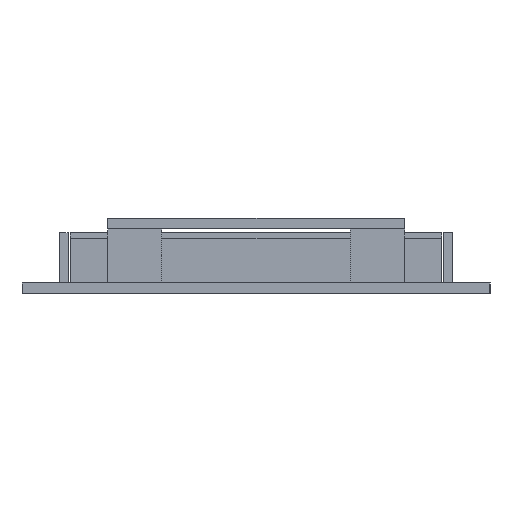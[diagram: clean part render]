
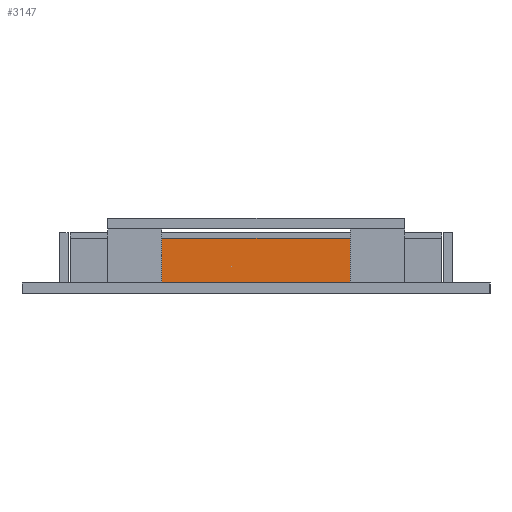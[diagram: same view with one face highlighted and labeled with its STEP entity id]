
A CAD part, left-side view. The second image highlights one B-rep face of the part: STEP entity #3147.
In plain terms, the highlighted planar face has unit normal (-1, 0, 0).
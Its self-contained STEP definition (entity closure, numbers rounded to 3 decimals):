
#152 = PLANE('',#153);
#153 = AXIS2_PLACEMENT_3D('',#154,#155,#156);
#154 = CARTESIAN_POINT('',(0.,0.,2.4));
#155 = DIRECTION('',(0.,0.,1.));
#156 = DIRECTION('',(1.,0.,-0.));
#699 = VERTEX_POINT('',#700);
#700 = CARTESIAN_POINT('',(8.,31.,2.4));
#713 = PLANE('',#714);
#714 = AXIS2_PLACEMENT_3D('',#715,#716,#717);
#715 = CARTESIAN_POINT('',(1.,31.,2.3));
#716 = DIRECTION('',(-0.,1.,0.));
#717 = DIRECTION('',(0.,0.,1.));
#724 = EDGE_CURVE('',#699,#725,#727,.T.);
#725 = VERTEX_POINT('',#726);
#726 = CARTESIAN_POINT('',(8.,73.,2.4));
#727 = SURFACE_CURVE('',#728,(#732,#738),.PCURVE_S1.);
#728 = LINE('',#729,#730);
#729 = CARTESIAN_POINT('',(8.,5.375,2.4));
#730 = VECTOR('',#731,1.);
#731 = DIRECTION('',(-0.,1.,0.));
#732 = PCURVE('',#152,#733);
#733 = DEFINITIONAL_REPRESENTATION('',(#734),#737);
#734 = B_SPLINE_CURVE_WITH_KNOTS('',1,(#735,#736),.UNSPECIFIED.,.F.,.F.,
  (2,2),(5.375,87.875),.PIECEWISE_BEZIER_KNOTS.);
#735 = CARTESIAN_POINT('',(8.,10.75));
#736 = CARTESIAN_POINT('',(8.,93.25));
#737 = ( GEOMETRIC_REPRESENTATION_CONTEXT(2) 
PARAMETRIC_REPRESENTATION_CONTEXT() REPRESENTATION_CONTEXT('2D SPACE',''
  ) );
#738 = PCURVE('',#739,#744);
#739 = PLANE('',#740);
#740 = AXIS2_PLACEMENT_3D('',#741,#742,#743);
#741 = CARTESIAN_POINT('',(8.,10.75,2.3));
#742 = DIRECTION('',(1.,0.,-0.));
#743 = DIRECTION('',(0.,0.,1.));
#744 = DEFINITIONAL_REPRESENTATION('',(#745),#748);
#745 = B_SPLINE_CURVE_WITH_KNOTS('',1,(#746,#747),.UNSPECIFIED.,.F.,.F.,
  (2,2),(5.375,87.875),.PIECEWISE_BEZIER_KNOTS.);
#746 = CARTESIAN_POINT('',(0.1,0.));
#747 = CARTESIAN_POINT('',(0.1,-82.5));
#748 = ( GEOMETRIC_REPRESENTATION_CONTEXT(2) 
PARAMETRIC_REPRESENTATION_CONTEXT() REPRESENTATION_CONTEXT('2D SPACE',''
  ) );
#765 = PLANE('',#766);
#766 = AXIS2_PLACEMENT_3D('',#767,#768,#769);
#767 = CARTESIAN_POINT('',(1.,73.,2.3));
#768 = DIRECTION('',(-0.,1.,0.));
#769 = DIRECTION('',(0.,0.,1.));
#2948 = VERTEX_POINT('',#2949);
#2949 = CARTESIAN_POINT('',(8.,31.,12.3));
#2962 = PLANE('',#2963);
#2963 = AXIS2_PLACEMENT_3D('',#2964,#2965,#2966);
#2964 = CARTESIAN_POINT('',(7.5,10.75,12.3));
#2965 = DIRECTION('',(0.,0.,1.));
#2966 = DIRECTION('',(1.,0.,-0.));
#2973 = EDGE_CURVE('',#699,#2948,#2974,.T.);
#2974 = SURFACE_CURVE('',#2975,(#2979,#2985),.PCURVE_S1.);
#2975 = LINE('',#2976,#2977);
#2976 = CARTESIAN_POINT('',(8.,31.,2.3));
#2977 = VECTOR('',#2978,1.);
#2978 = DIRECTION('',(0.,0.,1.));
#2979 = PCURVE('',#713,#2980);
#2980 = DEFINITIONAL_REPRESENTATION('',(#2981),#2984);
#2981 = B_SPLINE_CURVE_WITH_KNOTS('',1,(#2982,#2983),.UNSPECIFIED.,.F.,
  .F.,(2,2),(0.1,10.),.PIECEWISE_BEZIER_KNOTS.);
#2982 = CARTESIAN_POINT('',(0.1,7.));
#2983 = CARTESIAN_POINT('',(10.,7.));
#2984 = ( GEOMETRIC_REPRESENTATION_CONTEXT(2) 
PARAMETRIC_REPRESENTATION_CONTEXT() REPRESENTATION_CONTEXT('2D SPACE',''
  ) );
#2985 = PCURVE('',#739,#2986);
#2986 = DEFINITIONAL_REPRESENTATION('',(#2987),#2990);
#2987 = B_SPLINE_CURVE_WITH_KNOTS('',1,(#2988,#2989),.UNSPECIFIED.,.F.,
  .F.,(2,2),(0.1,10.),.PIECEWISE_BEZIER_KNOTS.);
#2988 = CARTESIAN_POINT('',(0.1,-20.25));
#2989 = CARTESIAN_POINT('',(10.,-20.25));
#2990 = ( GEOMETRIC_REPRESENTATION_CONTEXT(2) 
PARAMETRIC_REPRESENTATION_CONTEXT() REPRESENTATION_CONTEXT('2D SPACE',''
  ) );
#3086 = VERTEX_POINT('',#3087);
#3087 = CARTESIAN_POINT('',(8.,73.,12.3));
#3106 = EDGE_CURVE('',#725,#3086,#3107,.T.);
#3107 = SURFACE_CURVE('',#3108,(#3112,#3118),.PCURVE_S1.);
#3108 = LINE('',#3109,#3110);
#3109 = CARTESIAN_POINT('',(8.,73.,2.3));
#3110 = VECTOR('',#3111,1.);
#3111 = DIRECTION('',(0.,0.,1.));
#3112 = PCURVE('',#765,#3113);
#3113 = DEFINITIONAL_REPRESENTATION('',(#3114),#3117);
#3114 = B_SPLINE_CURVE_WITH_KNOTS('',1,(#3115,#3116),.UNSPECIFIED.,.F.,
  .F.,(2,2),(0.1,10.),.PIECEWISE_BEZIER_KNOTS.);
#3115 = CARTESIAN_POINT('',(0.1,7.));
#3116 = CARTESIAN_POINT('',(10.,7.));
#3117 = ( GEOMETRIC_REPRESENTATION_CONTEXT(2) 
PARAMETRIC_REPRESENTATION_CONTEXT() REPRESENTATION_CONTEXT('2D SPACE',''
  ) );
#3118 = PCURVE('',#739,#3119);
#3119 = DEFINITIONAL_REPRESENTATION('',(#3120),#3123);
#3120 = B_SPLINE_CURVE_WITH_KNOTS('',1,(#3121,#3122),.UNSPECIFIED.,.F.,
  .F.,(2,2),(0.1,10.),.PIECEWISE_BEZIER_KNOTS.);
#3121 = CARTESIAN_POINT('',(0.1,-62.25));
#3122 = CARTESIAN_POINT('',(10.,-62.25));
#3123 = ( GEOMETRIC_REPRESENTATION_CONTEXT(2) 
PARAMETRIC_REPRESENTATION_CONTEXT() REPRESENTATION_CONTEXT('2D SPACE',''
  ) );
#3147 = ADVANCED_FACE('',(#3148),#739,.F.);
#3148 = FACE_BOUND('',#3149,.F.);
#3149 = EDGE_LOOP('',(#3150,#3151,#3152,#3153));
#3150 = ORIENTED_EDGE('',*,*,#2973,.F.);
#3151 = ORIENTED_EDGE('',*,*,#724,.T.);
#3152 = ORIENTED_EDGE('',*,*,#3106,.T.);
#3153 = ORIENTED_EDGE('',*,*,#3154,.T.);
#3154 = EDGE_CURVE('',#3086,#2948,#3155,.T.);
#3155 = SURFACE_CURVE('',#3156,(#3160,#3166),.PCURVE_S1.);
#3156 = LINE('',#3157,#3158);
#3157 = CARTESIAN_POINT('',(8.,10.75,12.3));
#3158 = VECTOR('',#3159,1.);
#3159 = DIRECTION('',(0.,-1.,0.));
#3160 = PCURVE('',#739,#3161);
#3161 = DEFINITIONAL_REPRESENTATION('',(#3162),#3165);
#3162 = B_SPLINE_CURVE_WITH_KNOTS('',1,(#3163,#3164),.UNSPECIFIED.,.F.,
  .F.,(2,2),(-82.5,0.),.PIECEWISE_BEZIER_KNOTS.);
#3163 = CARTESIAN_POINT('',(10.,-82.5));
#3164 = CARTESIAN_POINT('',(10.,0.));
#3165 = ( GEOMETRIC_REPRESENTATION_CONTEXT(2) 
PARAMETRIC_REPRESENTATION_CONTEXT() REPRESENTATION_CONTEXT('2D SPACE',''
  ) );
#3166 = PCURVE('',#2962,#3167);
#3167 = DEFINITIONAL_REPRESENTATION('',(#3168),#3171);
#3168 = B_SPLINE_CURVE_WITH_KNOTS('',1,(#3169,#3170),.UNSPECIFIED.,.F.,
  .F.,(2,2),(-82.5,0.),.PIECEWISE_BEZIER_KNOTS.);
#3169 = CARTESIAN_POINT('',(0.5,82.5));
#3170 = CARTESIAN_POINT('',(0.5,0.));
#3171 = ( GEOMETRIC_REPRESENTATION_CONTEXT(2) 
PARAMETRIC_REPRESENTATION_CONTEXT() REPRESENTATION_CONTEXT('2D SPACE',''
  ) );
